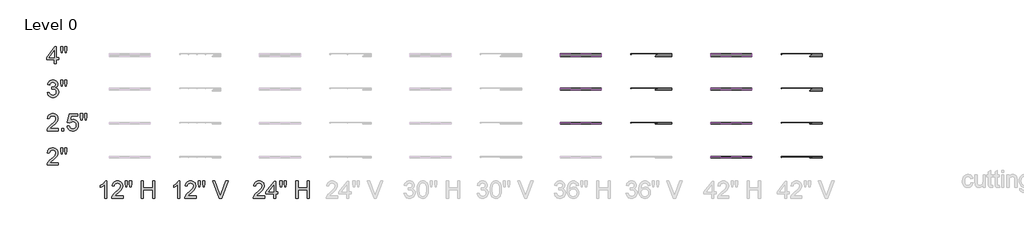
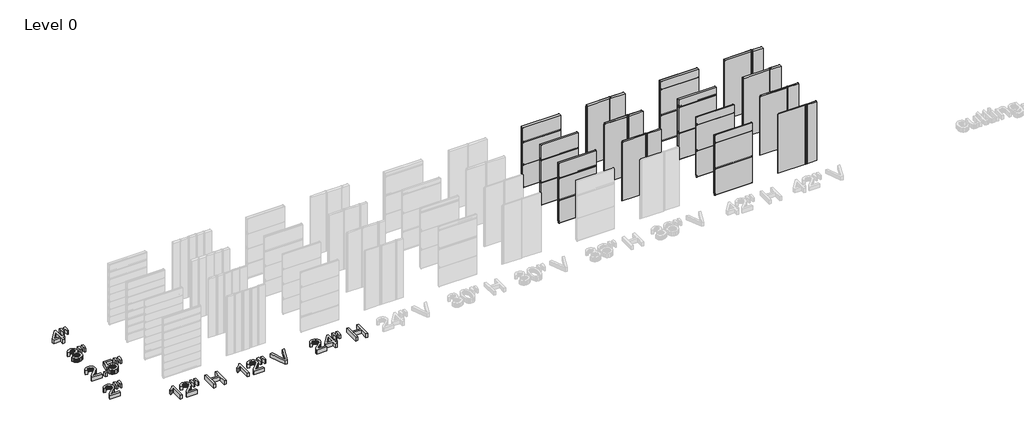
# One storey, part 2 of 5: 35 plates, 7 proxies.
"""IFC4 building model written with IfcOpenShell, lengths in millimetres."""

from ifc_helpers import new_model, si_unit, origin, origin_with_axes, place, context, project, spatial, polyline, outline, extrude, transform, mapped, element, save
from components import plate_dd8bc8b6, plate_0339fd76, plate_47ceeb69, plate_a6819ea9, plate_1add2ea0, plate_ec5e73b8, plate_5019aeee, plate_c719a7a9, plate_90d1a63a, plate_0f1cd221, plate_6702c4e9, plate_02fd043f, plate_aefddf00, plate_1998553f, plate_c49927b6, plate_7b0d1b0b, plate_6e94575f, plate_90314a49, plate_fcef75d7, plate_4bd44487, plate_3af4c5b5, plate_7f3386e1, plate_28f486fa, plate_696052eb

model = new_model("IFC4")

# Units and contexts
model_context = context("Model", 3, world=origin())
ifc_project = project(units=[si_unit("LENGTHUNIT", "METRE", prefix="MILLI")], contexts=[model_context])

# Site, building, storey
site = spatial("IfcSite", under=ifc_project)
building = spatial("IfcBuilding", under=site)
storey = spatial("IfcBuildingStorey", under=building, Name="Level 0", Elevation=0.0)

# Proxies
placement = place(None, origin())
element("IfcBuildingElementProxy", 1, Name="24\" Arial", ObjectType="24\" Arial", at=placement, inside=storey, context=model_context, shape_type="SweptSolid", body=[
    extrude(outline(polyline([(-32312.5108068, 10658.7692936), (-32312.5108068, 10582.6275201), (-32712.2551178, 10582.6275201), (-32710.5820807, 10609.433291), (-32704.0758257, 10635.1237038), (-32685.3006325, 10676.1502893), (-32657.8256469, 10715.949981), (-32618.0817231, 10757.6086027), (-32562.4997156, 10804.2119782), (-32480.3350088, 10877.1935707), (-32431.0361847, 10931.0653626), (-32416.657361, 10953.075094), (-32406.3867727, 10974.7873966), (-32400.2244197, 10996.2022704), (-32398.170302, 11017.3197154), (-32400.1082366, 11037.18703), (-32405.9220402, 11055.4463701), (-32415.6117129, 11072.0977357), (-32429.1772547, 11087.1411269), (-32445.8657989, 11099.6006053), (-32464.9244789, 11108.5002328), (-32486.3532947, 11113.8400093), (-32510.1522463, 11115.6199347), (-32535.2245649, 11113.8818352), (-32557.6479082, 11108.6675365), (-32577.4222763, 11099.9770386), (-32594.5476691, 11087.8103417), (-32608.401345, 11072.5764102), (-32618.3605626, 11054.6842088), (-32624.4253218, 11034.1337374), (-32626.5956226, 11010.9249962), (-32702.7373961, 11020.4427178), (-32696.1893151, 11059.7497931), (-32684.278221, 11094.0935251), (-32667.0041138, 11123.4739141), (-32644.3669935, 11147.8909598), (-32616.8873605, 11167.0844123), (-32585.0857153, 11180.7940212), (-32548.9620577, 11189.0197865), (-32508.5163878, 11191.7617083), (-32467.7082266, 11188.713063), (-32431.3893814, 11179.5671273), (-32399.5598522, 11164.3239012), (-32372.219639, 11142.9833846), (-32350.2610281, 11117.1256681), (-32334.5763061, 11088.3308421), (-32325.1654729, 11056.5989067), (-32322.0285285, 11021.9298619), (-32325.4117811, 10985.5134228), (-32335.561539, 10949.72902), (-32353.5745709, 10913.3311702), (-32380.5476454, 10875.0743905), (-32423.5446967, 10829.4004799), (-32489.6296589, 10770.7512379), (-32577.2224413, 10697.5093952), (-32611.575468, 10658.7692936), (-32312.5108068, 10658.7692936)])), origin_with_axes(), (0.0, 0.0, 1.0), 152.4),
    extrude(outline(polyline([(-32217.7797331, 10972.8541094), (-32236.3690333, 11090.4872009), (-32236.3690333, 11191.7617083), (-32160.2272598, 11191.7617083), (-32160.2272598, 11090.4872009), (-32176.8832727, 10972.8541094), (-32217.7797331, 10972.8541094)])), origin_with_axes(), (0.0, 0.0, 1.0), 152.4),
    extrude(outline(polyline([(-32065.9423293, 10972.8541094), (-32084.0854862, 11090.4872009), (-32084.0854862, 11191.7617083), (-32007.9437127, 11191.7617083), (-32007.9437127, 11090.4872009), (-32025.7894409, 10972.8541094), (-32065.9423293, 10972.8541094)])), origin_with_axes(), (0.0, 0.0, 1.0), 152.4),
])
element("IfcBuildingElementProxy", 2, Name="24\" Arial", ObjectType="24\" Arial", at=placement, inside=storey, context=model_context, shape_type="SweptSolid", body=[
    extrude(outline(polyline([(-32312.5108068, 11877.9692936), (-32312.5108068, 11801.8275201), (-32712.2551178, 11801.8275201), (-32710.5820807, 11828.633291), (-32704.0758257, 11854.3237038), (-32685.3006325, 11895.3502893), (-32657.8256469, 11935.149981), (-32618.0817231, 11976.8086027), (-32562.4997156, 12023.4119782), (-32480.3350088, 12096.3935707), (-32431.0361847, 12150.2653626), (-32416.657361, 12172.275094), (-32406.3867727, 12193.9873966), (-32400.2244197, 12215.4022704), (-32398.170302, 12236.5197154), (-32400.1082366, 12256.38703), (-32405.9220402, 12274.6463701), (-32415.6117129, 12291.2977357), (-32429.1772547, 12306.3411269), (-32445.8657989, 12318.8006053), (-32464.9244789, 12327.7002328), (-32486.3532947, 12333.0400093), (-32510.1522463, 12334.8199347), (-32535.2245649, 12333.0818352), (-32557.6479082, 12327.8675365), (-32577.4222763, 12319.1770386), (-32594.5476691, 12307.0103417), (-32608.401345, 12291.7764102), (-32618.3605626, 12273.8842088), (-32624.4253218, 12253.3337374), (-32626.5956226, 12230.1249962), (-32702.7373961, 12239.6427178), (-32696.1893151, 12278.9497931), (-32684.278221, 12313.2935251), (-32667.0041138, 12342.6739141), (-32644.3669935, 12367.0909598), (-32616.8873605, 12386.2844123), (-32585.0857153, 12399.9940212), (-32548.9620577, 12408.2197865), (-32508.5163878, 12410.9617083), (-32467.7082266, 12407.913063), (-32431.3893814, 12398.7671273), (-32399.5598522, 12383.5239012), (-32372.219639, 12362.1833846), (-32350.2610281, 12336.3256681), (-32334.5763061, 12307.5308421), (-32325.1654729, 12275.7989067), (-32322.0285285, 12241.1298619), (-32325.4117811, 12204.7134228), (-32335.561539, 12168.92902), (-32353.5745709, 12132.5311702), (-32380.5476454, 12094.2743905), (-32423.5446967, 12048.6004799), (-32489.6296589, 11989.9512379), (-32577.2224413, 11916.7093952), (-32611.575468, 11877.9692936), (-32312.5108068, 11877.9692936)])), origin_with_axes(), (0.0, 0.0, 1.0), 152.4),
    extrude(outline(polyline([(-32198.2981465, 11801.8275201), (-32198.2981465, 11877.9692936), (-32122.156373, 11877.9692936), (-32122.156373, 11801.8275201), (-32198.2981465, 11801.8275201)])), origin_with_axes(), (0.0, 0.0, 1.0), 152.4),
    extrude(outline(polyline([(-31998.425991, 11963.6287888), (-31922.2842175, 11973.1465105), (-31916.5958917, 11948.6690495), (-31908.3050638, 11927.4354214), (-31897.4117339, 11909.4456262), (-31883.915902, 11894.6996638), (-31867.845452, 11883.2161236), (-31849.2282678, 11875.0135949), (-31828.0643496, 11870.0920777), (-31804.3536972, 11868.4515719), (-31775.3543889, 11870.7334085), (-31749.7755119, 11877.5789183), (-31727.6170661, 11888.9881013), (-31708.8790515, 11904.9609575), (-31693.9797274, 11924.7074416), (-31683.3373531, 11947.4375084), (-31676.9519285, 11973.1511579), (-31674.8234536, 12001.84839), (-31676.817156, 12028.970179), (-31682.7982634, 12053.0805013), (-31692.7667756, 12074.179357), (-31706.7226927, 12092.2667461), (-31724.7124879, 12106.7756948), (-31746.7826346, 12117.1392297), (-31772.9331326, 12123.3573506), (-31803.163982, 12125.4300576), (-31840.1009215, 12122.1211621), (-31870.0111054, 12112.1944758), (-31893.8983562, 12096.9884283), (-31912.7664958, 12077.8414491), (-31988.9082694, 12087.3591708), (-31922.2842175, 12401.4439866), (-31627.2348451, 12401.4439866), (-31627.2348451, 12325.3022131), (-31860.7164553, 12325.3022131), (-31893.2849093, 12157.5523683), (-31866.4140758, 12176.8108833), (-31838.8926169, 12190.5669654), (-31810.7205325, 12198.8206147), (-31781.8978226, 12201.5718311), (-31744.8168161, 12198.1606945), (-31710.7565708, 12187.9272848), (-31679.7170869, 12170.8716018), (-31651.6983642, 12146.9936458), (-31628.5035649, 12117.7526766), (-31611.9358511, 12084.6079544), (-31601.9952228, 12047.5594791), (-31598.6816801, 12006.6072509), (-31601.6652628, 11967.1607559), (-31610.6160108, 11930.4654773), (-31625.5339242, 11896.5214152), (-31646.4190029, 11865.3285695), (-31678.0579918, 11833.3828572), (-31714.976342, 11810.5644912), (-31757.1740534, 11796.8734716), (-31804.651126, 11792.3097984), (-31843.9442593, 11795.2422605), (-31879.4358806, 11804.0396468), (-31911.1259901, 11818.7019574), (-31939.0145877, 11839.2291921), (-31962.2186816, 11864.5989395), (-31979.8552802, 11893.7887881), (-31991.9243833, 11926.7987379), (-31998.425991, 11963.6287888)])), origin_with_axes(), (0.0, 0.0, 1.0), 152.4),
    extrude(outline(polyline([(-31513.4683281, 12192.0541094), (-31532.0576283, 12309.6872009), (-31532.0576283, 12410.9617083), (-31455.9158547, 12410.9617083), (-31455.9158547, 12309.6872009), (-31472.5718677, 12192.0541094), (-31513.4683281, 12192.0541094)])), origin_with_axes(), (0.0, 0.0, 1.0), 152.4),
    extrude(outline(polyline([(-31361.6309242, 12192.0541094), (-31379.7740812, 12309.6872009), (-31379.7740812, 12410.9617083), (-31303.6323077, 12410.9617083), (-31303.6323077, 12309.6872009), (-31321.4780359, 12192.0541094), (-31361.6309242, 12192.0541094)])), origin_with_axes(), (0.0, 0.0, 1.0), 152.4),
])
element("IfcBuildingElementProxy", 3, Name="24\" Arial", ObjectType="24\" Arial", at=placement, inside=storey, context=model_context, shape_type="SweptSolid", body=[
    extrude(outline(polyline([(-32702.7373961, 13157.4287888), (-32626.5956226, 13166.9465105), (-32609.5492343, 13119.0976519), (-32598.0563995, 13101.0009682), (-32584.5838042, 13086.7894482), (-32568.8247249, 13076.0541273), (-32550.4724383, 13068.386041), (-32529.5269444, 13063.7851892), (-32505.988243, 13062.2515719), (-32478.4017216, 13064.3614575), (-32453.7894881, 13070.6911142), (-32432.1515427, 13081.2405421), (-32413.4878854, 13096.0097411), (-32398.4584362, 13113.8926478), (-32387.7231153, 13133.783199), (-32381.2819228, 13155.6813946), (-32379.1348586, 13179.5872347), (-32381.2633335, 13202.35448), (-32387.6487581, 13223.0676078), (-32398.2911325, 13241.7266178), (-32413.1904565, 13258.3315102), (-32431.3707921, 13271.9621145), (-32451.8562009, 13281.6982605), (-32474.6466829, 13287.5399481), (-32499.7422382, 13289.4871773), (-32523.7967926, 13287.4051757), (-32553.1307083, 13281.1591708), (-32544.6539874, 13357.3009443), (-32532.4594065, 13356.4086579), (-32486.8412638, 13361.8739122), (-32446.0563393, 13378.2696749), (-32429.2702012, 13390.6687381), (-32417.2801026, 13406.0049108), (-32410.0860434, 13424.2781929), (-32407.6880237, 13445.4885844), (-32409.4261233, 13462.7069236), (-32414.640422, 13478.3730564), (-32423.3309198, 13492.4869825), (-32435.4976168, 13505.0487021), (-32450.4062355, 13515.3611164), (-32467.3224987, 13522.7271266), (-32486.2464062, 13527.1467327), (-32507.1779582, 13528.6199347), (-32528.0537423, 13527.1327907), (-32547.107775, 13522.6713587), (-32564.3400563, 13515.2356386), (-32579.7505861, 13504.8256305), (-32592.9582839, 13491.4413344), (-32603.5820689, 13475.0827502), (-32611.6219413, 13455.7498781), (-32617.0779009, 13433.4427178), (-32693.2196744, 13442.9604395), (-32684.1945692, 13479.311816), (-32670.8009784, 13511.3318856), (-32653.0389021, 13539.0206482), (-32630.9083402, 13562.3781039), (-32605.1063916, 13580.9209308), (-32576.3301549, 13594.1658072), (-32544.5796302, 13602.112733), (-32509.8548175, 13604.7617083), (-32461.9873695, 13599.5381149), (-32418.0236746, 13583.8673349), (-32380.95661, 13559.1435656), (-32353.7790532, 13526.7610047), (-32337.1044509, 13489.4522793), (-32331.5462502, 13449.9500164), (-32336.8256114, 13413.1432021), (-32352.6636952, 13379.7568189), (-32378.8374298, 13351.3151897), (-32415.1237438, 13329.3426369), (-32389.749349, 13321.4050057), (-32367.4607781, 13310.0841219), (-32348.258031, 13295.3799854), (-32332.1411078, 13277.2925964), (-32319.3888479, 13256.2680979), (-32310.2800908, 13232.7526332), (-32304.8148365, 13206.7462022), (-32302.9930851, 13178.248805), (-32306.6365879, 13139.6202393), (-32317.5670964, 13104.0403187), (-32335.7846106, 13071.5090434), (-32361.2891305, 13042.0264134), (-32392.3611457, 13017.5628943), (-32427.2811461, 13000.0889522), (-32466.0491316, 12989.6045869), (-32508.6651022, 12986.1097984), (-32547.1821322, 12989.0933811), (-32582.2787309, 12998.0441291), (-32613.9548984, 13012.9620425), (-32642.2106347, 13033.8471213), (-32665.9026978, 13059.4724716), (-32683.8878457, 13088.6111996), (-32696.1660785, 13121.2633054), (-32702.7373961, 13157.4287888)])), origin_with_axes(), (0.0, 0.0, 1.0), 152.4),
    extrude(outline(polyline([(-32217.7797331, 13385.8541094), (-32236.3690333, 13503.4872009), (-32236.3690333, 13604.7617083), (-32160.2272598, 13604.7617083), (-32160.2272598, 13503.4872009), (-32176.8832727, 13385.8541094), (-32217.7797331, 13385.8541094)])), origin_with_axes(), (0.0, 0.0, 1.0), 152.4),
    extrude(outline(polyline([(-32065.9423293, 13385.8541094), (-32084.0854862, 13503.4872009), (-32084.0854862, 13604.7617083), (-32007.9437127, 13604.7617083), (-32007.9437127, 13503.4872009), (-32025.7894409, 13385.8541094), (-32065.9423293, 13385.8541094)])), origin_with_axes(), (0.0, 0.0, 1.0), 152.4),
])
element("IfcBuildingElementProxy", 4, Name="24\" Arial", ObjectType="24\" Arial", at=placement, inside=storey, context=model_context, shape_type="SweptSolid", body=[
    extrude(outline(polyline([(-32455.2766321, 14189.4275201), (-32455.2766321, 14332.1933455), (-32731.2905611, 14332.1933455), (-32731.2905611, 14408.335119), (-32436.2411888, 14789.0439866), (-32379.1348586, 14789.0439866), (-32379.1348586, 14408.335119), (-32302.9930851, 14408.335119), (-32302.9930851, 14332.1933455), (-32379.1348586, 14332.1933455), (-32379.1348586, 14189.4275201), (-32455.2766321, 14189.4275201)]), holes=[polyline([(-32455.2766321, 14408.335119), (-32455.2766321, 14643.601302), (-32637.6004883, 14408.335119), (-32455.2766321, 14408.335119)])]), origin_with_axes(), (0.0, 0.0, 1.0), 152.4),
    extrude(outline(polyline([(-32217.7797331, 14579.6541094), (-32236.3690333, 14697.2872009), (-32236.3690333, 14798.5617083), (-32160.2272598, 14798.5617083), (-32160.2272598, 14697.2872009), (-32176.8832727, 14579.6541094), (-32217.7797331, 14579.6541094)])), origin_with_axes(), (0.0, 0.0, 1.0), 152.4),
    extrude(outline(polyline([(-32065.9423293, 14579.6541094), (-32084.0854862, 14697.2872009), (-32084.0854862, 14798.5617083), (-32007.9437127, 14798.5617083), (-32007.9437127, 14697.2872009), (-32025.7894409, 14579.6541094), (-32065.9423293, 14579.6541094)])), origin_with_axes(), (0.0, 0.0, 1.0), 152.4),
])
element("IfcBuildingElementProxy", 5, Name="24\" Arial", ObjectType="24\" Arial", at=placement, inside=storey, context=model_context, shape_type="SweptSolid", body=[
    extrude(outline(polyline([(-30589.8489204, 9409.440542), (-30665.9906939, 9409.440542), (-30665.9906939, 9884.1369113), (-30697.7783972, 9858.4279091), (-30738.1171786, 9832.7560856), (-30780.4636044, 9810.3188003), (-30818.2742409, 9794.3134128), (-30818.2742409, 9866.2911831), (-30758.4724623, 9898.8224584), (-30706.6640827, 9937.5253814), (-30665.8233902, 9978.682092), (-30638.9246728, 10018.5747302), (-30589.8489204, 10018.5747302), (-30589.8489204, 9409.440542)])), origin_with_axes(), (0.0, 0.0, 1.0), 152.4),
    extrude(outline(polyline([(-30018.785619, 9485.5823155), (-30018.785619, 9409.440542), (-30418.52993, 9409.440542), (-30416.8568929, 9436.2463129), (-30410.3506379, 9461.9367257), (-30391.5754447, 9502.9633112), (-30364.100459, 9542.7630029), (-30324.3565353, 9584.4216246), (-30268.7745278, 9631.0250001), (-30186.609821, 9704.0065926), (-30137.3109969, 9757.8783845), (-30122.9321732, 9779.8881159), (-30112.6615849, 9801.6004185), (-30106.4992319, 9823.0152923), (-30104.4451142, 9844.1327373), (-30106.3830487, 9864.0000519), (-30112.1968524, 9882.259392), (-30121.8865251, 9898.9107576), (-30135.4520669, 9913.9541488), (-30152.1406111, 9926.4136272), (-30171.1992911, 9935.3132547), (-30192.6281069, 9940.6530311), (-30216.4270585, 9942.4329566), (-30241.4993771, 9940.6948571), (-30263.9227204, 9935.4805584), (-30283.6970885, 9926.7900605), (-30300.8224813, 9914.6233636), (-30314.6761572, 9899.3894321), (-30324.6353748, 9881.4972307), (-30330.700134, 9860.9467593), (-30332.8704348, 9837.7380181), (-30409.0122083, 9847.2557397), (-30402.4641273, 9886.562815), (-30390.5530332, 9920.906547), (-30373.278926, 9950.286936), (-30350.6418057, 9974.7039817), (-30323.1621727, 9993.8974342), (-30291.3605275, 10007.6070431), (-30255.2368699, 10015.8328084), (-30214.7912, 10018.5747302), (-30173.9830388, 10015.5260849), (-30137.6641936, 10006.3801492), (-30105.8346644, 9991.1369231), (-30078.4944512, 9969.7964065), (-30056.5358403, 9943.93869), (-30040.8511183, 9915.143864), (-30031.4402851, 9883.4119286), (-30028.3033407, 9848.7428838), (-30031.6865933, 9812.3264447), (-30041.8363512, 9776.5420419), (-30059.8493831, 9740.1441921), (-30086.8224576, 9701.8874124), (-30129.8195089, 9656.2135018), (-30195.9044711, 9597.5642598), (-30283.4972535, 9524.3224171), (-30317.8502802, 9485.5823155), (-30018.785619, 9485.5823155)])), origin_with_axes(), (0.0, 0.0, 1.0), 152.4),
    extrude(outline(polyline([(-29924.0545453, 9799.6671313), (-29942.6438455, 9917.3002228), (-29942.6438455, 10018.5747302), (-29866.502072, 10018.5747302), (-29866.502072, 9917.3002228), (-29883.1580849, 9799.6671313), (-29924.0545453, 9799.6671313)])), origin_with_axes(), (0.0, 0.0, 1.0), 152.4),
    extrude(outline(polyline([(-29772.2171415, 9799.6671313), (-29790.3602984, 9917.3002228), (-29790.3602984, 10018.5747302), (-29714.2185249, 10018.5747302), (-29714.2185249, 9917.3002228), (-29732.0642531, 9799.6671313), (-29772.2171415, 9799.6671313)])), origin_with_axes(), (0.0, 0.0, 1.0), 152.4),
    extrude(outline(polyline([(-29371.5805441, 9409.440542), (-29371.5805441, 10018.5747302), (-29295.4387706, 10018.5747302), (-29295.4387706, 9771.1139662), (-28971.8362331, 9771.1139662), (-28971.8362331, 10018.5747302), (-28895.6944596, 10018.5747302), (-28895.6944596, 9409.440542), (-28971.8362331, 9409.440542), (-28971.8362331, 9694.9721927), (-29295.4387706, 9694.9721927), (-29295.4387706, 9409.440542), (-29371.5805441, 9409.440542)])), origin_with_axes(), (0.0, 0.0, 1.0), 152.4),
])
element("IfcBuildingElementProxy", 6, Name="24\" Arial", ObjectType="24\" Arial", at=placement, inside=storey, context=model_context, shape_type="SweptSolid", body=[
    extrude(outline(polyline([(-27999.0489204, 9409.440542), (-28075.1906939, 9409.440542), (-28075.1906939, 9884.1369113), (-28106.9783972, 9858.4279091), (-28147.3171786, 9832.7560856), (-28189.6636044, 9810.3188003), (-28227.4742409, 9794.3134128), (-28227.4742409, 9866.2911831), (-28167.6724623, 9898.8224584), (-28115.8640827, 9937.5253814), (-28075.0233902, 9978.682092), (-28048.1246728, 10018.5747302), (-27999.0489204, 10018.5747302), (-27999.0489204, 9409.440542)])), origin_with_axes(), (0.0, 0.0, 1.0), 152.4),
    extrude(outline(polyline([(-27427.985619, 9485.5823155), (-27427.985619, 9409.440542), (-27827.72993, 9409.440542), (-27826.0568929, 9436.2463129), (-27819.5506379, 9461.9367257), (-27800.7754447, 9502.9633112), (-27773.300459, 9542.7630029), (-27733.5565353, 9584.4216246), (-27677.9745278, 9631.0250001), (-27595.809821, 9704.0065926), (-27546.5109969, 9757.8783845), (-27532.1321732, 9779.8881159), (-27521.8615849, 9801.6004185), (-27515.6992319, 9823.0152923), (-27513.6451142, 9844.1327373), (-27515.5830487, 9864.0000519), (-27521.3968524, 9882.259392), (-27531.0865251, 9898.9107576), (-27544.6520669, 9913.9541488), (-27561.3406111, 9926.4136272), (-27580.3992911, 9935.3132547), (-27601.8281069, 9940.6530311), (-27625.6270585, 9942.4329566), (-27650.6993771, 9940.6948571), (-27673.1227204, 9935.4805584), (-27692.8970885, 9926.7900605), (-27710.0224813, 9914.6233636), (-27723.8761572, 9899.3894321), (-27733.8353748, 9881.4972307), (-27739.900134, 9860.9467593), (-27742.0704348, 9837.7380181), (-27818.2122083, 9847.2557397), (-27811.6641273, 9886.562815), (-27799.7530332, 9920.906547), (-27782.478926, 9950.286936), (-27759.8418057, 9974.7039817), (-27732.3621727, 9993.8974342), (-27700.5605275, 10007.6070431), (-27664.4368699, 10015.8328084), (-27623.9912, 10018.5747302), (-27583.1830388, 10015.5260849), (-27546.8641936, 10006.3801492), (-27515.0346644, 9991.1369231), (-27487.6944512, 9969.7964065), (-27465.7358403, 9943.93869), (-27450.0511183, 9915.143864), (-27440.6402851, 9883.4119286), (-27437.5033407, 9848.7428838), (-27440.8865933, 9812.3264447), (-27451.0363512, 9776.5420419), (-27469.0493831, 9740.1441921), (-27496.0224576, 9701.8874124), (-27539.0195089, 9656.2135018), (-27605.1044711, 9597.5642598), (-27692.6972535, 9524.3224171), (-27727.0502802, 9485.5823155), (-27427.985619, 9485.5823155)])), origin_with_axes(), (0.0, 0.0, 1.0), 152.4),
    extrude(outline(polyline([(-27333.2545453, 9799.6671313), (-27351.8438455, 9917.3002228), (-27351.8438455, 10018.5747302), (-27275.702072, 10018.5747302), (-27275.702072, 9917.3002228), (-27292.3580849, 9799.6671313), (-27333.2545453, 9799.6671313)])), origin_with_axes(), (0.0, 0.0, 1.0), 152.4),
    extrude(outline(polyline([(-27181.4171415, 9799.6671313), (-27199.5602984, 9917.3002228), (-27199.5602984, 10018.5747302), (-27123.4185249, 10018.5747302), (-27123.4185249, 9917.3002228), (-27141.2642531, 9799.6671313), (-27181.4171415, 9799.6671313)])), origin_with_axes(), (0.0, 0.0, 1.0), 152.4),
    extrude(outline(polyline([(-26600.8361184, 9409.440542), (-26843.2405927, 10018.5747302), (-26761.7451007, 10018.5747302), (-26599.4976888, 9579.7185316), (-26566.6318061, 9480.8234547), (-26534.2120666, 9579.7185316), (-26371.5185114, 10018.5747302), (-26290.0230195, 10018.5747302), (-26522.1662001, 9409.440542), (-26600.8361184, 9409.440542)])), origin_with_axes(), (0.0, 0.0, 1.0), 152.4),
])
element("IfcBuildingElementProxy", 7, Name="24\" Arial", ObjectType="24\" Arial", at=placement, inside=storey, context=model_context, shape_type="SweptSolid", body=[
    extrude(outline(polyline([(-24998.7539818, 9485.5823155), (-24998.7539818, 9409.440542), (-25398.4982928, 9409.440542), (-25396.8252557, 9436.2463129), (-25390.3190007, 9461.9367257), (-25371.5438075, 9502.9633112), (-25344.0688218, 9542.7630029), (-25304.3248981, 9584.4216246), (-25248.7428905, 9631.0250001), (-25166.5781838, 9704.0065926), (-25117.2793597, 9757.8783845), (-25102.900536, 9779.8881159), (-25092.6299477, 9801.6004185), (-25086.4675947, 9823.0152923), (-25084.413477, 9844.1327373), (-25086.3514115, 9864.0000519), (-25092.1652152, 9882.259392), (-25101.8548879, 9898.9107576), (-25115.4204297, 9913.9541488), (-25132.1089739, 9926.4136272), (-25151.1676539, 9935.3132547), (-25172.5964697, 9940.6530311), (-25196.3954213, 9942.4329566), (-25221.4677399, 9940.6948571), (-25243.8910832, 9935.4805584), (-25263.6654513, 9926.7900605), (-25280.790844, 9914.6233636), (-25294.64452, 9899.3894321), (-25304.6037376, 9881.4972307), (-25310.6684968, 9860.9467593), (-25312.8387975, 9837.7380181), (-25388.9805711, 9847.2557397), (-25382.4324901, 9886.562815), (-25370.521396, 9920.906547), (-25353.2472888, 9950.286936), (-25330.6101685, 9974.7039817), (-25303.1305355, 9993.8974342), (-25271.3288903, 10007.6070431), (-25235.2052327, 10015.8328084), (-25194.7595628, 10018.5747302), (-25153.9514016, 10015.5260849), (-25117.6325564, 10006.3801492), (-25085.8030272, 9991.1369231), (-25058.462814, 9969.7964065), (-25036.5042031, 9943.93869), (-25020.8194811, 9915.143864), (-25011.4086479, 9883.4119286), (-25008.2717035, 9848.7428838), (-25011.6549561, 9812.3264447), (-25021.804714, 9776.5420419), (-25039.8177459, 9740.1441921), (-25066.7908204, 9701.8874124), (-25109.7878717, 9656.2135018), (-25175.8728339, 9597.5642598), (-25263.4656163, 9524.3224171), (-25297.818643, 9485.5823155), (-24998.7539818, 9485.5823155)])), origin_with_axes(), (0.0, 0.0, 1.0), 152.4),
    extrude(outline(polyline([(-24675.1514443, 9409.440542), (-24675.1514443, 9552.2063674), (-24951.1653733, 9552.2063674), (-24951.1653733, 9628.3481409), (-24656.116001, 10009.0570085), (-24599.0096708, 10009.0570085), (-24599.0096708, 9628.3481409), (-24522.8678973, 9628.3481409), (-24522.8678973, 9552.2063674), (-24599.0096708, 9552.2063674), (-24599.0096708, 9409.440542), (-24675.1514443, 9409.440542)]), holes=[polyline([(-24675.1514443, 9628.3481409), (-24675.1514443, 9863.6143239), (-24857.4753005, 9628.3481409), (-24675.1514443, 9628.3481409)])]), origin_with_axes(), (0.0, 0.0, 1.0), 152.4),
    extrude(outline(polyline([(-24437.6545453, 9799.6671313), (-24456.2438455, 9917.3002228), (-24456.2438455, 10018.5747302), (-24380.102072, 10018.5747302), (-24380.102072, 9917.3002228), (-24396.7580849, 9799.6671313), (-24437.6545453, 9799.6671313)])), origin_with_axes(), (0.0, 0.0, 1.0), 152.4),
    extrude(outline(polyline([(-24285.8171415, 9799.6671313), (-24303.9602984, 9917.3002228), (-24303.9602984, 10018.5747302), (-24227.8185249, 10018.5747302), (-24227.8185249, 9917.3002228), (-24245.6642531, 9799.6671313), (-24285.8171415, 9799.6671313)])), origin_with_axes(), (0.0, 0.0, 1.0), 152.4),
    extrude(outline(polyline([(-23885.1805441, 9409.440542), (-23885.1805441, 10018.5747302), (-23809.0387706, 10018.5747302), (-23809.0387706, 9771.1139662), (-23485.4362331, 9771.1139662), (-23485.4362331, 10018.5747302), (-23409.2944596, 10018.5747302), (-23409.2944596, 9409.440542), (-23485.4362331, 9409.440542), (-23485.4362331, 9694.9721927), (-23809.0387706, 9694.9721927), (-23809.0387706, 9409.440542), (-23885.1805441, 9409.440542)])), origin_with_axes(), (0.0, 0.0, 1.0), 152.4),
])

# Plates
plate_shape = plate_dd8bc8b6(model_context)
element("IfcPlate", 8, ObjectType="KIP-42-DWTR-R19-CP-Hz-F : Hz 2\"", at=placement, inside=storey, context=model_context, shape_type="MappedRepresentation", body=[
    mapped(plate_shape, transform((-8448.7250935, 10881.8207172, 0.0), x_axis=(1.0, 0.0, 0.0), y_axis=(0.0, 1.0, 0.0), z_axis=(0.0, 0.0, 1.0))),
])
element("IfcPlate", 9, ObjectType="KIP-42-DWTR-R19-CP-Hz-F : Hz 2\"", at=placement, inside=storey, context=model_context, shape_type="MappedRepresentation", body=[
    mapped(plate_shape, transform((-8448.7250935, 10881.8207172, 1066.8), x_axis=(1.0, 0.0, 0.0), y_axis=(0.0, 1.0, 0.0), z_axis=(0.0, 0.0, 1.0))),
])
plate_2_shape = plate_0339fd76(model_context)
element("IfcPlate", 10, ObjectType="KIP-42-DWTR-R19-CP-Hz-F : Hz 2\"", at=placement, inside=storey, context=model_context, shape_type="MappedRepresentation", body=[
    mapped(plate_2_shape, transform((-8448.7250935, 10881.8207172, 2133.6), x_axis=(1.0, 0.0, 0.0), y_axis=(0.0, 1.0, 0.0), z_axis=(0.0, 0.0, 1.0))),
])
element("IfcPlate", 11, ObjectType="KIP-42-DWTR-R19-CP-Hz-F : Hz 2.5\"", at=placement, inside=storey, context=model_context, shape_type="MappedRepresentation", body=[
    mapped(plate_shape, transform((-8448.7250935, 12101.0207172, 0.0), x_axis=(1.0, 0.0, 0.0), y_axis=(0.0, 1.0, 0.0), z_axis=(0.0, 0.0, 1.0))),
])
element("IfcPlate", 12, ObjectType="KIP-42-DWTR-R19-CP-Hz-F : Hz 2.5\"", at=placement, inside=storey, context=model_context, shape_type="MappedRepresentation", body=[
    mapped(plate_shape, transform((-8448.7250935, 12101.0207172, 1066.8), x_axis=(1.0, 0.0, 0.0), y_axis=(0.0, 1.0, 0.0), z_axis=(0.0, 0.0, 1.0))),
])
element("IfcPlate", 13, ObjectType="KIP-42-DWTR-R19-CP-Hz-F : Hz 2.5\"", at=placement, inside=storey, context=model_context, shape_type="MappedRepresentation", body=[
    mapped(plate_2_shape, transform((-8448.7250935, 12101.0207172, 2133.6), x_axis=(1.0, 0.0, 0.0), y_axis=(0.0, 1.0, 0.0), z_axis=(0.0, 0.0, 1.0))),
])
plate_3_shape = plate_47ceeb69(model_context)
element("IfcPlate", 14, ObjectType="KIP-36-DWTR-R19-CP-Hz-F : Hz 2.5\"", at=placement, inside=storey, context=model_context, shape_type="MappedRepresentation", body=[
    mapped(plate_3_shape, transform((-13782.7250935, 12101.0207172, 0.0), x_axis=(1.0, 0.0, 0.0), y_axis=(0.0, 1.0, 0.0), z_axis=(0.0, 0.0, 1.0))),
])
element("IfcPlate", 15, ObjectType="KIP-36-DWTR-R19-CP-Hz-F : Hz 2.5\"", at=placement, inside=storey, context=model_context, shape_type="MappedRepresentation", body=[
    mapped(plate_3_shape, transform((-13782.7250935, 12101.0207172, 915.0), x_axis=(1.0, 0.0, 0.0), y_axis=(0.0, 1.0, 0.0), z_axis=(0.0, 0.0, 1.0))),
])
plate_4_shape = plate_a6819ea9(model_context)
element("IfcPlate", 16, ObjectType="KIP-36-DWTR-R19-CP-Hz-F : Hz 2.5\"", at=placement, inside=storey, context=model_context, shape_type="MappedRepresentation", body=[
    mapped(plate_4_shape, transform((-13782.7250935, 12101.0207172, 1830.0), x_axis=(1.0, 0.0, 0.0), y_axis=(0.0, 1.0, 0.0), z_axis=(0.0, 0.0, 1.0))),
])
plate_5_shape = plate_1add2ea0(model_context)
element("IfcPlate", 17, ObjectType="KIP-42-DWTR-R19-CP-Hz-F : Hz 3\"", at=placement, inside=storey, context=model_context, shape_type="MappedRepresentation", body=[
    mapped(plate_5_shape, transform((-8448.7250935, 13320.2207172, 0.0), x_axis=(1.0, 0.0, 0.0), y_axis=(0.0, 1.0, 0.0), z_axis=(0.0, 0.0, 1.0))),
])
element("IfcPlate", 18, ObjectType="KIP-42-DWTR-R19-CP-Hz-F : Hz 3\"", at=placement, inside=storey, context=model_context, shape_type="MappedRepresentation", body=[
    mapped(plate_5_shape, transform((-8448.7250935, 13320.2207172, 1066.8), x_axis=(1.0, 0.0, 0.0), y_axis=(0.0, 1.0, 0.0), z_axis=(0.0, 0.0, 1.0))),
])
plate_6_shape = plate_ec5e73b8(model_context)
element("IfcPlate", 19, ObjectType="KIP-42-DWTR-R19-CP-Hz-F : Hz 3\"", at=placement, inside=storey, context=model_context, shape_type="MappedRepresentation", body=[
    mapped(plate_6_shape, transform((-8448.7250935, 13320.2207172, 2133.6), x_axis=(1.0, 0.0, 0.0), y_axis=(0.0, 1.0, 0.0), z_axis=(0.0, 0.0, 1.0))),
])
plate_7_shape = plate_5019aeee(model_context)
element("IfcPlate", 20, ObjectType="KIP-36-DWTR-R19-CP-Hz-F : Hz 3\"", at=placement, inside=storey, context=model_context, shape_type="MappedRepresentation", body=[
    mapped(plate_7_shape, transform((-13782.7250935, 13320.2207172, 0.0), x_axis=(1.0, 0.0, 0.0), y_axis=(0.0, 1.0, 0.0), z_axis=(0.0, 0.0, 1.0))),
])
element("IfcPlate", 21, ObjectType="KIP-36-DWTR-R19-CP-Hz-F : Hz 3\"", at=placement, inside=storey, context=model_context, shape_type="MappedRepresentation", body=[
    mapped(plate_7_shape, transform((-13782.7250935, 13320.2207172, 915.0), x_axis=(1.0, 0.0, 0.0), y_axis=(0.0, 1.0, 0.0), z_axis=(0.0, 0.0, 1.0))),
])
plate_8_shape = plate_c719a7a9(model_context)
element("IfcPlate", 22, ObjectType="KIP-36-DWTR-R19-CP-Hz-F : Hz 3\"", at=placement, inside=storey, context=model_context, shape_type="MappedRepresentation", body=[
    mapped(plate_8_shape, transform((-13782.7250935, 13320.2207172, 1830.0), x_axis=(1.0, 0.0, 0.0), y_axis=(0.0, 1.0, 0.0), z_axis=(0.0, 0.0, 1.0))),
])
plate_9_shape = plate_90d1a63a(model_context)
element("IfcPlate", 23, ObjectType="KIP-42-DWTR-R19-CP-Hz-F : Hz 4\"", at=placement, inside=storey, context=model_context, shape_type="MappedRepresentation", body=[
    mapped(plate_9_shape, transform((-8448.7250935, 14539.4207172, 0.0), x_axis=(1.0, 0.0, 0.0), y_axis=(0.0, 1.0, 0.0), z_axis=(0.0, 0.0, 1.0))),
])
element("IfcPlate", 24, ObjectType="KIP-42-DWTR-R19-CP-Hz-F : Hz 4\"", at=placement, inside=storey, context=model_context, shape_type="MappedRepresentation", body=[
    mapped(plate_9_shape, transform((-8448.7250935, 14539.4207172, 1066.8), x_axis=(1.0, 0.0, 0.0), y_axis=(0.0, 1.0, 0.0), z_axis=(0.0, 0.0, 1.0))),
])
plate_10_shape = plate_0f1cd221(model_context)
element("IfcPlate", 25, ObjectType="KIP-42-DWTR-R19-CP-Hz-F : Hz 4\"", at=placement, inside=storey, context=model_context, shape_type="MappedRepresentation", body=[
    mapped(plate_10_shape, transform((-8448.7250935, 14539.4207172, 2133.6), x_axis=(1.0, 0.0, 0.0), y_axis=(0.0, 1.0, 0.0), z_axis=(0.0, 0.0, 1.0))),
])
plate_11_shape = plate_6702c4e9(model_context)
element("IfcPlate", 26, ObjectType="KIP-36-DWTR-R19-CP-Hz-F : Hz 4\"", at=placement, inside=storey, context=model_context, shape_type="MappedRepresentation", body=[
    mapped(plate_11_shape, transform((-13782.7250935, 14539.4207172, 0.0), x_axis=(1.0, 0.0, 0.0), y_axis=(0.0, 1.0, 0.0), z_axis=(0.0, 0.0, 1.0))),
])
element("IfcPlate", 27, ObjectType="KIP-36-DWTR-R19-CP-Hz-F : Hz 4\"", at=placement, inside=storey, context=model_context, shape_type="MappedRepresentation", body=[
    mapped(plate_11_shape, transform((-13782.7250935, 14539.4207172, 915.0), x_axis=(1.0, 0.0, 0.0), y_axis=(0.0, 1.0, 0.0), z_axis=(0.0, 0.0, 1.0))),
])
plate_12_shape = plate_02fd043f(model_context)
element("IfcPlate", 28, ObjectType="KIP-36-DWTR-R19-CP-Hz-F : Hz 4\"", at=placement, inside=storey, context=model_context, shape_type="MappedRepresentation", body=[
    mapped(plate_12_shape, transform((-13782.7250935, 14539.4207172, 1830.0), x_axis=(1.0, 0.0, 0.0), y_axis=(0.0, 1.0, 0.0), z_axis=(0.0, 0.0, 1.0))),
])
plate_13_shape = plate_aefddf00(model_context)
element("IfcPlate", 29, ObjectType="KIP-42-DWTR-R19-CP-Vt-F : Vt 2\"", at=placement, inside=storey, context=model_context, shape_type="MappedRepresentation", body=[
    mapped(plate_13_shape, transform((-6145.5413834, 10881.8207172, 0.0), x_axis=(1.0, 0.0, 0.0), y_axis=(0.0, 1.0, 0.0), z_axis=(0.0, 0.0, 1.0))),
])
plate_14_shape = plate_1998553f(model_context)
element("IfcPlate", 30, ObjectType="KIP-42-DWTR-R19-CP-Vt-F : Vt 2\"", at=placement, inside=storey, context=model_context, shape_type="MappedRepresentation", body=[
    mapped(plate_14_shape, transform((-5415.5413834, 10881.8207172, 0.0), x_axis=(1.0, 0.0, 0.0), y_axis=(0.0, 1.0, 0.0), z_axis=(0.0, 0.0, 1.0))),
])
plate_15_shape = plate_c49927b6(model_context)
element("IfcPlate", 31, ObjectType="KIP-42-DWTR-R19-CP-Vt-F : Vt 2.5\"", at=placement, inside=storey, context=model_context, shape_type="MappedRepresentation", body=[
    mapped(plate_15_shape, transform((-6145.5413834, 12101.0207172, 0.0), x_axis=(1.0, 0.0, 0.0), y_axis=(0.0, 1.0, 0.0), z_axis=(0.0, 0.0, 1.0))),
])
plate_16_shape = plate_7b0d1b0b(model_context)
element("IfcPlate", 32, ObjectType="KIP-42-DWTR-R19-CP-Vt-F : Vt 2.5\"", at=placement, inside=storey, context=model_context, shape_type="MappedRepresentation", body=[
    mapped(plate_16_shape, transform((-5415.5413834, 12101.0207172, 0.0), x_axis=(1.0, 0.0, 0.0), y_axis=(0.0, 1.0, 0.0), z_axis=(0.0, 0.0, 1.0))),
])
plate_17_shape = plate_6e94575f(model_context)
element("IfcPlate", 33, ObjectType="KIP-36-DWTR-R19-CP-Vt-F : Vt 2.5\"", at=placement, inside=storey, context=model_context, shape_type="MappedRepresentation", body=[
    mapped(plate_17_shape, transform((-11555.4413834, 12101.0207172, 0.0), x_axis=(1.0, 0.0, 0.0), y_axis=(0.0, 1.0, 0.0), z_axis=(0.0, 0.0, 1.0))),
])
plate_18_shape = plate_90314a49(model_context)
element("IfcPlate", 34, ObjectType="KIP-36-DWTR-R19-CP-Vt-F : Vt 2.5\"", at=placement, inside=storey, context=model_context, shape_type="MappedRepresentation", body=[
    mapped(plate_18_shape, transform((-10825.4413834, 12101.0207172, 0.0), x_axis=(1.0, 0.0, 0.0), y_axis=(0.0, 1.0, 0.0), z_axis=(0.0, 0.0, 1.0))),
])
plate_19_shape = plate_fcef75d7(model_context)
element("IfcPlate", 35, ObjectType="KIP-42-DWTR-R19-CP-Vt-F : Vt 3\"", at=placement, inside=storey, context=model_context, shape_type="MappedRepresentation", body=[
    mapped(plate_19_shape, transform((-6145.5413834, 13320.2207172, 0.0), x_axis=(1.0, 0.0, 0.0), y_axis=(0.0, 1.0, 0.0), z_axis=(0.0, 0.0, 1.0))),
])
plate_20_shape = plate_4bd44487(model_context)
element("IfcPlate", 36, ObjectType="KIP-42-DWTR-R19-CP-Vt-F : Vt 3\"", at=placement, inside=storey, context=model_context, shape_type="MappedRepresentation", body=[
    mapped(plate_20_shape, transform((-5415.5413834, 13320.2207172, 0.0), x_axis=(1.0, 0.0, 0.0), y_axis=(0.0, 1.0, 0.0), z_axis=(0.0, 0.0, 1.0))),
])
plate_21_shape = plate_3af4c5b5(model_context)
element("IfcPlate", 37, ObjectType="KIP-36-DWTR-R19-CP-Vt-F : Vt 3\"", at=placement, inside=storey, context=model_context, shape_type="MappedRepresentation", body=[
    mapped(plate_21_shape, transform((-11555.4413834, 13320.2207172, 0.0), x_axis=(1.0, 0.0, 0.0), y_axis=(0.0, 1.0, 0.0), z_axis=(0.0, 0.0, 1.0))),
])
plate_22_shape = plate_7f3386e1(model_context)
element("IfcPlate", 38, ObjectType="KIP-36-DWTR-R19-CP-Vt-F : Vt 3\"", at=placement, inside=storey, context=model_context, shape_type="MappedRepresentation", body=[
    mapped(plate_22_shape, transform((-10825.4413834, 13320.2207172, 0.0), x_axis=(1.0, 0.0, 0.0), y_axis=(0.0, 1.0, 0.0), z_axis=(0.0, 0.0, 1.0))),
])
element("IfcPlate", 39, ObjectType="KIP-42-DWTR-R19-CP-Vt-F : Vt 4\"", at=placement, inside=storey, context=model_context, shape_type="MappedRepresentation", body=[
    mapped(plate_19_shape, transform((-6145.5413834, 14539.4207172, 0.0), x_axis=(1.0, 0.0, 0.0), y_axis=(0.0, 1.0, 0.0), z_axis=(0.0, 0.0, 1.0))),
])
element("IfcPlate", 40, ObjectType="KIP-42-DWTR-R19-CP-Vt-F : Vt 4\"", at=placement, inside=storey, context=model_context, shape_type="MappedRepresentation", body=[
    mapped(plate_20_shape, transform((-5415.5413834, 14539.4207172, 0.0), x_axis=(1.0, 0.0, 0.0), y_axis=(0.0, 1.0, 0.0), z_axis=(0.0, 0.0, 1.0))),
])
plate_23_shape = plate_28f486fa(model_context)
element("IfcPlate", 41, ObjectType="KIP-36-DWTR-R19-CP-Vt-F : Vt 4\"", at=placement, inside=storey, context=model_context, shape_type="MappedRepresentation", body=[
    mapped(plate_23_shape, transform((-11555.4413834, 14539.4207172, 0.0), x_axis=(1.0, 0.0, 0.0), y_axis=(0.0, 1.0, 0.0), z_axis=(0.0, 0.0, 1.0))),
])
plate_24_shape = plate_696052eb(model_context)
element("IfcPlate", 42, ObjectType="KIP-36-DWTR-R19-CP-Vt-F : Vt 4\"", at=placement, inside=storey, context=model_context, shape_type="MappedRepresentation", body=[
    mapped(plate_24_shape, transform((-10825.4413834, 14539.4207172, 0.0), x_axis=(1.0, 0.0, 0.0), y_axis=(0.0, 1.0, 0.0), z_axis=(0.0, 0.0, 1.0))),
])

save(model, "model.ifc")
